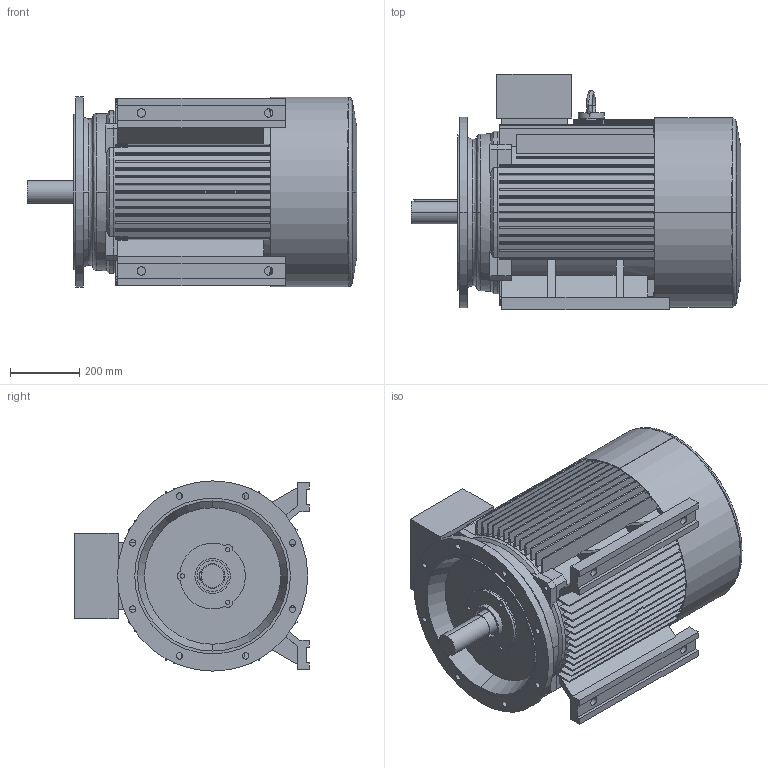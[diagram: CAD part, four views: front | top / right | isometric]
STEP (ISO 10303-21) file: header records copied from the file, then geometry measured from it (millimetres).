
FILE_DESCRIPTION (( 'STEP AP203' ), '1' );
FILE_NAME ('M3-280S-2p-FF-B35.STEP', '2019-07-09T10:40:46', ( '' ), ( '' ), 'SwSTEP 2.0', 'SolidWorks 2012', '' );
FILE_SCHEMA (( 'CONFIG_CONTROL_DESIGN' ));
Length unit declared in the file: millimetre
Products named in the file (8): M3-280S-2p-FF-B35; Y2-250-4.6.8ú¼280-2Ã¦Íß¦ð-Ô©Ã_-¼+¤; Y2-280-2ﾀiﾍ_-ｼ+､; Y2-280S+ｷﾎｨB3_-ｼ+､; 280ﾁｧ+ﾀ_-ｼ+､; Y2-280S.M-2ﾍﾟ_-ｼ+､; Y2-280-2-ｦﾈﾁﾂ-ｩﾃ_-ｼ+､; Y2-280ｦｾﾂ-ｩﾃ_-ｼ+､
Assembly tree (7 placements, depth 2):
  M3-280S-2p-FF-B35
    Y2-280ｦｾﾂ-ｩﾃ_-ｼ+､
    Y2-280S.M-2ﾍﾟ_-ｼ+､
    Y2-280-2-ｦﾈﾁﾂ-ｩﾃ_-ｼ+､
    280ﾁｧ+ﾀ_-ｼ+､
    Y2-280-2ﾀiﾍ_-ｼ+､
    Y2-250-4.6.8ú¼280-2Ã¦Íß¦ð-Ô©Ã_-¼+¤
    Y2-280S+ｷﾎｨB3_-ｼ+､
Bounding box: 952.53 x 679 x 550 mm (x, y, z)
Volume: 37662533.4 mm3; surface area: 6912766 mm2
Topology: 7 solids, 7 shells, 807 faces, 2164 edges, 1435 vertices
Faces by surface type: plane 453, cylinder 295, cone 33, bspline 26
Entity records: 28137 total; most frequent: CARTESIAN_POINT 6371, DIRECTION 4465, ORIENTED_EDGE 4328, EDGE_CURVE 2164, AXIS2_PLACEMENT_3D 1593, VERTEX_POINT 1435, VECTOR 1279, LINE 1279
